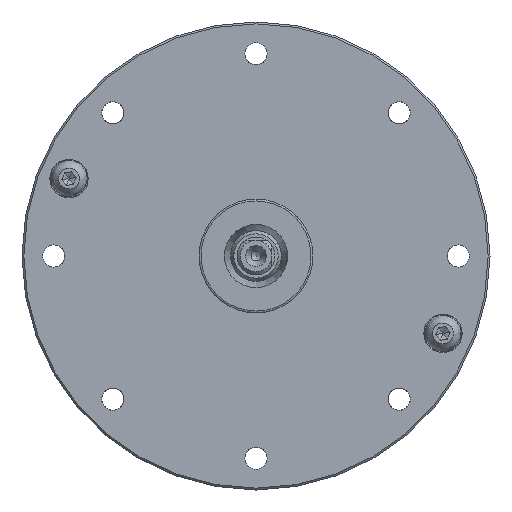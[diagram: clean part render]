
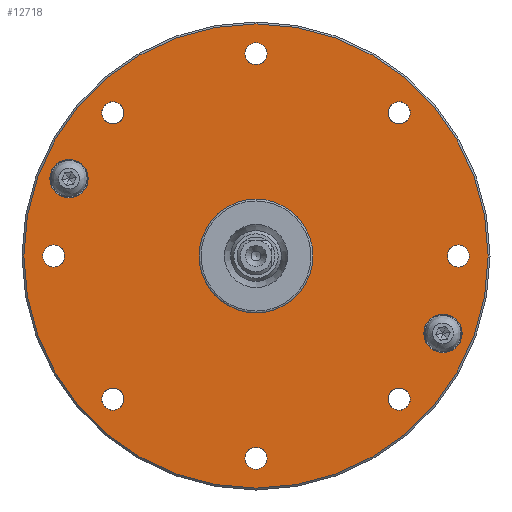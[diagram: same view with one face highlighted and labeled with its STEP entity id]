
A CAD part, left-side view. The second image highlights one B-rep face of the part: STEP entity #12718.
In plain terms, the highlighted planar face has unit normal (-1, 0, 0).
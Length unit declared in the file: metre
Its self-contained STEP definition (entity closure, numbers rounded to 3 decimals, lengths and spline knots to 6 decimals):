
#101 = EDGE_CURVE ( 'NONE', #23390, #23390, #9474, .T. ) ;
#304 = DIRECTION ( 'NONE',  ( 0., 0., 1. ) ) ;
#515 = EDGE_LOOP ( 'NONE', ( #5037 ) ) ;
#522 = VERTEX_POINT ( 'NONE', #7862 ) ;
#608 = CARTESIAN_POINT ( 'NONE',  ( -0.004, 0., -0.03025 ) ) ;
#1159 = EDGE_CURVE ( 'NONE', #9192, #9192, #30717, .T. ) ;
#1251 = VERTEX_POINT ( 'NONE', #25905 ) ;
#1358 = DIRECTION ( 'NONE',  ( 0., 0., 1. ) ) ;
#1407 = DIRECTION ( 'NONE',  ( 0., 0., -1. ) ) ;
#1430 = DIRECTION ( 'NONE',  ( -1., 0., 0. ) ) ;
#1731 = FACE_BOUND ( 'NONE', #29540, .T. ) ;
#1912 = FACE_BOUND ( 'NONE', #30791, .T. ) ;
#2077 = FACE_BOUND ( 'NONE', #4061, .T. ) ;
#2165 = DIRECTION ( 'NONE',  ( 0., 0., 1. ) ) ;
#2227 = VERTEX_POINT ( 'NONE', #9715 ) ;
#2369 = ORIENTED_EDGE ( 'NONE', *, *, #29179, .F. ) ;
#2742 = DIRECTION ( 'NONE',  ( -1., 0., 0. ) ) ;
#2809 = CARTESIAN_POINT ( 'NONE',  ( -0.004, 0., -0.032 ) ) ;
#3416 = ORIENTED_EDGE ( 'NONE', *, *, #26262, .F. ) ;
#3470 = EDGE_LOOP ( 'NONE', ( #13048 ) ) ;
#3849 = FACE_BOUND ( 'NONE', #28044, .T. ) ;
#3871 = DIRECTION ( 'NONE',  ( -1., 0., 0. ) ) ;
#3953 = AXIS2_PLACEMENT_3D ( 'NONE', #19829, #7516, #2165 ) ;
#4026 = CIRCLE ( 'NONE', #23660, 0.003025 ) ;
#4061 = EDGE_LOOP ( 'NONE', ( #29477 ) ) ;
#4148 = ORIENTED_EDGE ( 'NONE', *, *, #26687, .F. ) ;
#4595 = DIRECTION ( 'NONE',  ( -1., 0., 0. ) ) ;
#4753 = EDGE_CURVE ( 'NONE', #29268, #29268, #12736, .T. ) ;
#5037 = ORIENTED_EDGE ( 'NONE', *, *, #101, .F. ) ;
#5293 = EDGE_CURVE ( 'NONE', #522, #522, #21930, .T. ) ;
#5398 = DIRECTION ( 'NONE',  ( 0., 0., 1. ) ) ;
#6951 = CARTESIAN_POINT ( 'NONE',  ( -0.004, 0.022627, -0.020877 ) ) ;
#7053 = CARTESIAN_POINT ( 'NONE',  ( -0.004, -0.022627, 0.024377 ) ) ;
#7186 = DIRECTION ( 'NONE',  ( 0., 0., 1. ) ) ;
#7190 = EDGE_LOOP ( 'NONE', ( #4148 ) ) ;
#7326 = CIRCLE ( 'NONE', #9921, 0.00175 ) ;
#7516 = DIRECTION ( 'NONE',  ( -1., 0., 0. ) ) ;
#7862 = CARTESIAN_POINT ( 'NONE',  ( -0.004, 0., -0.0367 ) ) ;
#7864 = AXIS2_PLACEMENT_3D ( 'NONE', #24256, #16334, #21824 ) ;
#8187 = DIRECTION ( 'NONE',  ( -1., 0., 0. ) ) ;
#8243 = VERTEX_POINT ( 'NONE', #28476 ) ;
#8298 = CARTESIAN_POINT ( 'NONE',  ( -0.004, -0.022627, -0.022627 ) ) ;
#8643 = DIRECTION ( 'NONE',  ( -1., 0., 0. ) ) ;
#8911 = FACE_BOUND ( 'NONE', #15347, .T. ) ;
#9065 = PLANE ( 'NONE',  #22680 ) ;
#9192 = VERTEX_POINT ( 'NONE', #18884 ) ;
#9244 = FACE_BOUND ( 'NONE', #9322, .T. ) ;
#9322 = EDGE_LOOP ( 'NONE', ( #26973 ) ) ;
#9435 = DIRECTION ( 'NONE',  ( 0., 0., 1. ) ) ;
#9474 = CIRCLE ( 'NONE', #31713, 0.00175 ) ;
#9715 = CARTESIAN_POINT ( 'NONE',  ( -0.004, 0.022627, 0.024377 ) ) ;
#9921 = AXIS2_PLACEMENT_3D ( 'NONE', #17341, #2742, #304 ) ;
#10177 = CIRCLE ( 'NONE', #24114, 0.00175 ) ;
#10376 = VERTEX_POINT ( 'NONE', #22659 ) ;
#11088 = DIRECTION ( 'NONE',  ( -1., 0., 0. ) ) ;
#11813 = VERTEX_POINT ( 'NONE', #14393 ) ;
#11955 = FACE_BOUND ( 'NONE', #7190, .T. ) ;
#12397 = EDGE_CURVE ( 'NONE', #2227, #2227, #32100, .T. ) ;
#12478 = ORIENTED_EDGE ( 'NONE', *, *, #25376, .F. ) ;
#12711 = CIRCLE ( 'NONE', #25114, 0.00175 ) ;
#12718 = ADVANCED_FACE ( 'NONE', ( #21669, #19432, #2077, #24082, #3849, #1912, #11955, #9244, #23600, #1731, #21821, #8911 ), #9065, .F. ) ;
#12736 = CIRCLE ( 'NONE', #3953, 0.00175 ) ;
#13048 = ORIENTED_EDGE ( 'NONE', *, *, #14333, .F. ) ;
#13458 = ORIENTED_EDGE ( 'NONE', *, *, #5293, .F. ) ;
#13496 = EDGE_LOOP ( 'NONE', ( #15813 ) ) ;
#14084 = DIRECTION ( 'NONE',  ( -1., 0., 0. ) ) ;
#14333 = EDGE_CURVE ( 'NONE', #8243, #8243, #7326, .T. ) ;
#14393 = CARTESIAN_POINT ( 'NONE',  ( -0.004, 0.029564, 0.015271 ) ) ;
#14522 = EDGE_CURVE ( 'NONE', #20677, #20677, #21796, .T. ) ;
#15240 = CARTESIAN_POINT ( 'NONE',  ( -0.004, -0.029564, -0.012246 ) ) ;
#15347 = EDGE_LOOP ( 'NONE', ( #12478 ) ) ;
#15813 = ORIENTED_EDGE ( 'NONE', *, *, #29044, .F. ) ;
#16072 = CARTESIAN_POINT ( 'NONE',  ( -0.004, 0.022627, -0.022627 ) ) ;
#16334 = DIRECTION ( 'NONE',  ( -1., 0., 0. ) ) ;
#16604 = EDGE_LOOP ( 'NONE', ( #2369 ) ) ;
#16732 = AXIS2_PLACEMENT_3D ( 'NONE', #8298, #1430, #18303 ) ;
#17079 = AXIS2_PLACEMENT_3D ( 'NONE', #31140, #14084, #9435 ) ;
#17341 = CARTESIAN_POINT ( 'NONE',  ( -0.004, 0.032, 0. ) ) ;
#17379 = DIRECTION ( 'NONE',  ( 0., 0., 1. ) ) ;
#17801 = EDGE_LOOP ( 'NONE', ( #13458 ) ) ;
#18092 = CARTESIAN_POINT ( 'NONE',  ( -0.004, 0., 0.03375 ) ) ;
#18303 = DIRECTION ( 'NONE',  ( 0., 0., 1. ) ) ;
#18884 = CARTESIAN_POINT ( 'NONE',  ( -0.004, -0.022627, -0.020877 ) ) ;
#19432 = FACE_BOUND ( 'NONE', #3470, .T. ) ;
#19829 = CARTESIAN_POINT ( 'NONE',  ( -0.004, -0.022627, 0.022627 ) ) ;
#20330 = DIRECTION ( 'NONE',  ( 1., 0., 0. ) ) ;
#20366 = CARTESIAN_POINT ( 'NONE',  ( -0.004, 0., 0.009 ) ) ;
#20677 = VERTEX_POINT ( 'NONE', #20366 ) ;
#20887 = CIRCLE ( 'NONE', #23991, 0.003025 ) ;
#21524 = VERTEX_POINT ( 'NONE', #6951 ) ;
#21529 = CARTESIAN_POINT ( 'NONE',  ( -0.004, 0.029564, 0.012246 ) ) ;
#21669 = FACE_BOUND ( 'NONE', #13496, .T. ) ;
#21796 = CIRCLE ( 'NONE', #7864, 0.009 ) ;
#21821 = FACE_BOUND ( 'NONE', #16604, .T. ) ;
#21824 = DIRECTION ( 'NONE',  ( 0., 0., 1. ) ) ;
#21930 = CIRCLE ( 'NONE', #31793, 0.0367 ) ;
#22659 = CARTESIAN_POINT ( 'NONE',  ( -0.004, -0.029564, -0.009221 ) ) ;
#22680 = AXIS2_PLACEMENT_3D ( 'NONE', #29161, #31590, #1407 ) ;
#22726 = DIRECTION ( 'NONE',  ( 0., 0., -1. ) ) ;
#22798 = VERTEX_POINT ( 'NONE', #608 ) ;
#23389 = CARTESIAN_POINT ( 'NONE',  ( -0.004, 0., 0.032 ) ) ;
#23390 = VERTEX_POINT ( 'NONE', #18092 ) ;
#23600 = FACE_BOUND ( 'NONE', #515, .T. ) ;
#23660 = AXIS2_PLACEMENT_3D ( 'NONE', #15240, #30510, #17379 ) ;
#23991 = AXIS2_PLACEMENT_3D ( 'NONE', #21529, #3871, #31270 ) ;
#24082 = FACE_OUTER_BOUND ( 'NONE', #17801, .T. ) ;
#24114 = AXIS2_PLACEMENT_3D ( 'NONE', #26786, #4595, #7186 ) ;
#24256 = CARTESIAN_POINT ( 'NONE',  ( -0.004, 0., 0. ) ) ;
#25114 = AXIS2_PLACEMENT_3D ( 'NONE', #2809, #8187, #5398 ) ;
#25376 = EDGE_CURVE ( 'NONE', #10376, #10376, #4026, .T. ) ;
#25905 = CARTESIAN_POINT ( 'NONE',  ( -0.004, -0.032, 0.00175 ) ) ;
#26262 = EDGE_CURVE ( 'NONE', #22798, #22798, #12711, .T. ) ;
#26687 = EDGE_CURVE ( 'NONE', #1251, #1251, #10177, .T. ) ;
#26786 = CARTESIAN_POINT ( 'NONE',  ( -0.004, -0.032, 0. ) ) ;
#26973 = ORIENTED_EDGE ( 'NONE', *, *, #4753, .F. ) ;
#27119 = CIRCLE ( 'NONE', #27620, 0.00175 ) ;
#27620 = AXIS2_PLACEMENT_3D ( 'NONE', #16072, #8643, #28701 ) ;
#28044 = EDGE_LOOP ( 'NONE', ( #3416 ) ) ;
#28476 = CARTESIAN_POINT ( 'NONE',  ( -0.004, 0.032, 0.00175 ) ) ;
#28701 = DIRECTION ( 'NONE',  ( 0., 0., 1. ) ) ;
#29044 = EDGE_CURVE ( 'NONE', #21524, #21524, #27119, .T. ) ;
#29161 = CARTESIAN_POINT ( 'NONE',  ( -0.004, 0.0367, 0. ) ) ;
#29179 = EDGE_CURVE ( 'NONE', #11813, #11813, #20887, .T. ) ;
#29268 = VERTEX_POINT ( 'NONE', #7053 ) ;
#29477 = ORIENTED_EDGE ( 'NONE', *, *, #14522, .F. ) ;
#29540 = EDGE_LOOP ( 'NONE', ( #30096 ) ) ;
#30096 = ORIENTED_EDGE ( 'NONE', *, *, #12397, .F. ) ;
#30510 = DIRECTION ( 'NONE',  ( -1., 0., 0. ) ) ;
#30717 = CIRCLE ( 'NONE', #16732, 0.00175 ) ;
#30791 = EDGE_LOOP ( 'NONE', ( #31772 ) ) ;
#31140 = CARTESIAN_POINT ( 'NONE',  ( -0.004, 0.022627, 0.022627 ) ) ;
#31270 = DIRECTION ( 'NONE',  ( 0., 0., 1. ) ) ;
#31590 = DIRECTION ( 'NONE',  ( 1., 0., 0. ) ) ;
#31713 = AXIS2_PLACEMENT_3D ( 'NONE', #23389, #11088, #1358 ) ;
#31772 = ORIENTED_EDGE ( 'NONE', *, *, #1159, .F. ) ;
#31793 = AXIS2_PLACEMENT_3D ( 'NONE', #31899, #20330, #22726 ) ;
#31899 = CARTESIAN_POINT ( 'NONE',  ( -0.004, 0., 0. ) ) ;
#32100 = CIRCLE ( 'NONE', #17079, 0.00175 ) ;
